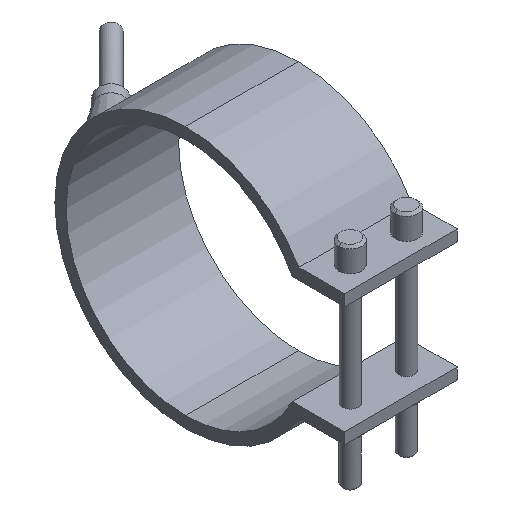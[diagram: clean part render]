
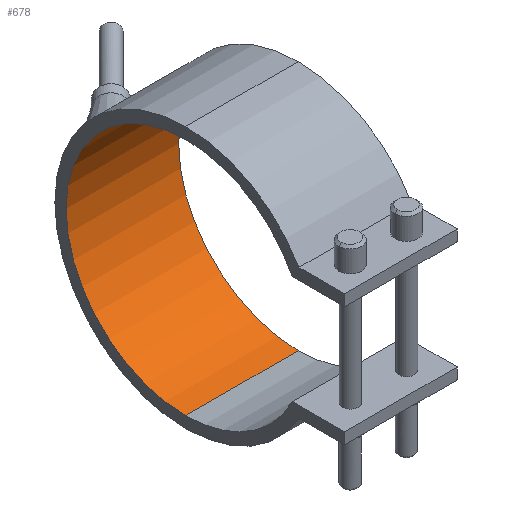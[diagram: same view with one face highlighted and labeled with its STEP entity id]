
A CAD part, isometric view. The second image highlights one B-rep face of the part: STEP entity #678.
In plain terms, the highlighted cylindrical face has radius 42.5 mm (diameter 85 mm), a partial arc.
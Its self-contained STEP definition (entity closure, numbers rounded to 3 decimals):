
#348=CARTESIAN_POINT('Vertex',(20.,0.,42.5)) ;
#353=CARTESIAN_POINT('Axis2P3D Location',(20.,0.,0.)) ;
#357=CARTESIAN_POINT('Vertex',(20.,0.,-42.5)) ;
#464=CARTESIAN_POINT('Vertex',(-20.,0.,-42.5)) ;
#467=CARTESIAN_POINT('Axis2P3D Location',(-20.,0.,0.)) ;
#471=CARTESIAN_POINT('Vertex',(-20.,0.,42.5)) ;
#650=CARTESIAN_POINT('Line Origine',(20.,0.,42.5)) ;
#662=CARTESIAN_POINT('Axis2P3D Location',(20.,0.,0.)) ;
#667=CARTESIAN_POINT('Line Origine',(20.,0.,-42.5)) ;
#354=DIRECTION('Axis2P3D Direction',(1.,0.,0.)) ;
#468=DIRECTION('Axis2P3D Direction',(1.,0.,0.)) ;
#651=DIRECTION('Vector Direction',(1.,0.,0.)) ;
#663=DIRECTION('Axis2P3D Direction',(1.,0.,-0.)) ;
#664=DIRECTION('Axis2P3D XDirection',(0.,0.,-1.)) ;
#668=DIRECTION('Vector Direction',(1.,0.,0.)) ;
#355=AXIS2_PLACEMENT_3D('Circle Axis2P3D',#353,#354,$) ;
#469=AXIS2_PLACEMENT_3D('Circle Axis2P3D',#467,#468,$) ;
#665=AXIS2_PLACEMENT_3D('Cylinder Axis2P3D',#662,#663,#664) ;
#673=ORIENTED_EDGE('',*,*,#359,.T.) ;
#674=ORIENTED_EDGE('',*,*,#654,.T.) ;
#675=ORIENTED_EDGE('',*,*,#473,.F.) ;
#676=ORIENTED_EDGE('',*,*,#671,.T.) ;
#652=VECTOR('Line Direction',#651,1.) ;
#669=VECTOR('Line Direction',#668,1.) ;
#678=ADVANCED_FACE('29085040',(#677),#666,.F.) ;
#356=CIRCLE('generated circle',#355,42.5) ;
#470=CIRCLE('generated circle',#469,42.5) ;
#666=CYLINDRICAL_SURFACE('generated cylinder',#665,42.5) ;
#359=EDGE_CURVE('',#358,#349,#356,.T.) ;
#473=EDGE_CURVE('',#465,#472,#470,.T.) ;
#654=EDGE_CURVE('',#349,#472,#653,.F.) ;
#671=EDGE_CURVE('',#465,#358,#670,.T.) ;
#672=EDGE_LOOP('',(#673,#674,#675,#676)) ;
#677=FACE_OUTER_BOUND('',#672,.T.) ;
#653=LINE('Line',#650,#652) ;
#670=LINE('Line',#667,#669) ;
#349=VERTEX_POINT('',#348) ;
#358=VERTEX_POINT('',#357) ;
#465=VERTEX_POINT('',#464) ;
#472=VERTEX_POINT('',#471) ;
